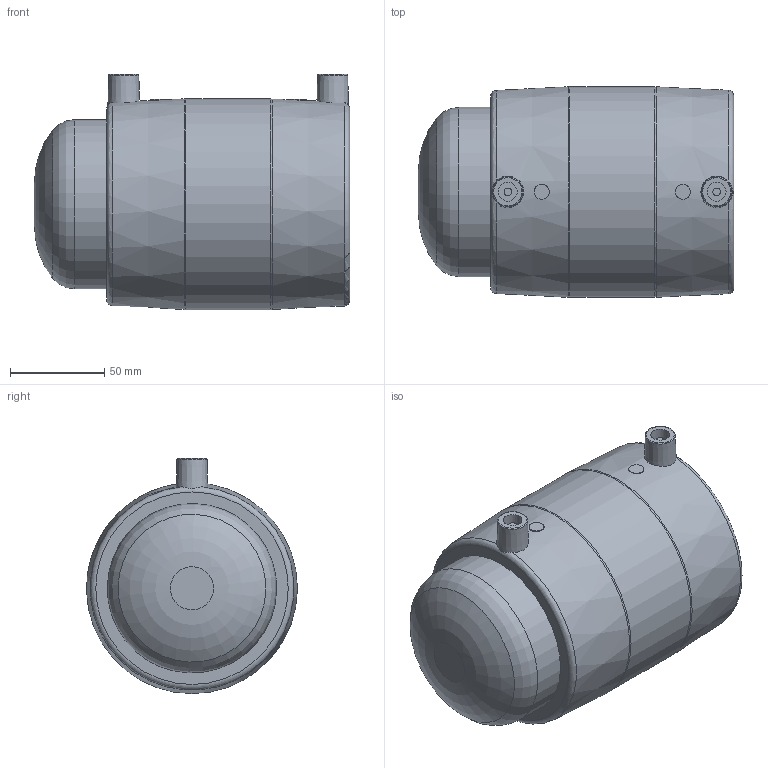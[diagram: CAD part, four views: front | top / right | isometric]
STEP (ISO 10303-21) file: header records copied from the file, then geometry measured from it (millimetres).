
FILE_DESCRIPTION(/* description */ ('Unknown'),/* implementation_level */ '2;1');
FILE_NAME(/* name */ 'CAEP090C',/* time_stamp */ '2021-02-11T10:18:31+01:00',/* author */ ('Unknown'),/* organization */ ('Unknown'),/* preprocessor_version */ 'ST-DEVELOPER v16.7',/* originating_system */ 'Solid Edge',/* authorisation */ 'Unknown');
FILE_SCHEMA (('AUTOMOTIVE_DESIGN {1 0 10303 214 3 1 1}'));
Length unit declared in the file: millimetre
Products named in the file (3): CAEP090C; MP090C; CAP090C
Assembly tree (2 placements, depth 2):
  CAEP090C
    MP090C
    CAP090C
Bounding box: 167.5 x 112 x 125 mm (x, y, z)
Volume: 934395.8 mm3; surface area: 169526.6 mm2
Topology: 2 solids, 2 shells, 107 faces, 262 edges, 167 vertices
Faces by surface type: bspline 38, plane 28, torus 22, cylinder 14, cone 5
Full cylindrical faces by diameter (mm): 4 x2, 8 x2, 10 x2, 73.6 x1, 90 x2, 112 x1
Entity records: 3677 total; most frequent: CARTESIAN_POINT 1610, ORIENTED_EDGE 438, DIRECTION 330, EDGE_CURVE 219, AXIS2_PLACEMENT_3D 153, VERTEX_POINT 149, FACE_BOUND 142, EDGE_LOOP 141
